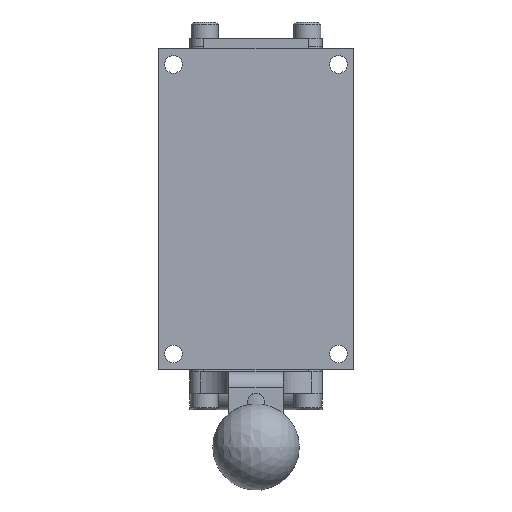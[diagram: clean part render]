
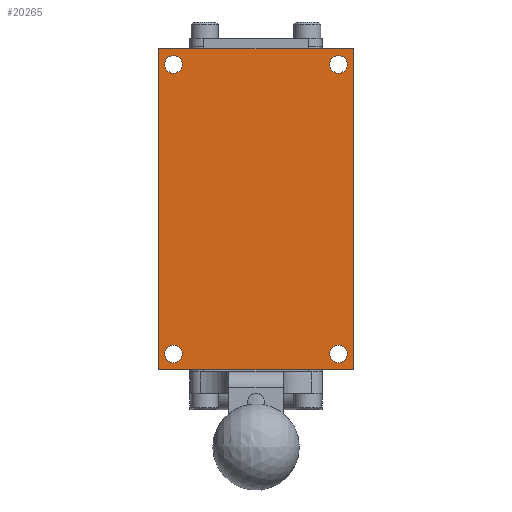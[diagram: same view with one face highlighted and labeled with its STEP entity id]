
A CAD part, front view. The second image highlights one B-rep face of the part: STEP entity #20265.
In plain terms, the highlighted planar face has unit normal (0, -1, 0).
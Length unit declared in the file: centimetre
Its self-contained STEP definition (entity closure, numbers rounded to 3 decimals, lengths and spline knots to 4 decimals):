
#2428=FACE_BOUND('',#4121,.T.);
#2429=FACE_BOUND('',#4122,.T.);
#2430=FACE_BOUND('',#4123,.T.);
#2431=FACE_BOUND('',#4124,.T.);
#2891=FACE_OUTER_BOUND('',#4120,.T.);
#4120=EDGE_LOOP('',(#15553,#15554,#15555,#15556));
#4121=EDGE_LOOP('',(#15557));
#4122=EDGE_LOOP('',(#15558));
#4123=EDGE_LOOP('',(#15559));
#4124=EDGE_LOOP('',(#15560));
#5213=CIRCLE('',#21569,0.2578);
#5214=CIRCLE('',#21571,0.2578);
#5215=CIRCLE('',#21573,0.2578);
#5216=CIRCLE('',#21575,0.2578);
#5975=LINE('',#28835,#7466);
#5986=LINE('',#28877,#7477);
#6204=LINE('',#29832,#7695);
#6446=LINE('',#31256,#7937);
#7466=VECTOR('',#23377,1.);
#7477=VECTOR('',#23412,1.);
#7695=VECTOR('',#23800,1.);
#7937=VECTOR('',#24192,1.);
#8985=VERTEX_POINT('',#28832);
#8986=VERTEX_POINT('',#28834);
#9004=VERTEX_POINT('',#28874);
#9005=VERTEX_POINT('',#28876);
#9530=VERTEX_POINT('',#32060);
#9531=VERTEX_POINT('',#32064);
#9532=VERTEX_POINT('',#32068);
#9533=VERTEX_POINT('',#32072);
#10904=EDGE_CURVE('',#8985,#8986,#5975,.T.);
#10924=EDGE_CURVE('',#9004,#9005,#5986,.T.);
#11205=EDGE_CURVE('',#8986,#9004,#6204,.T.);
#11541=EDGE_CURVE('',#9005,#8985,#6446,.T.);
#11713=EDGE_CURVE('',#9530,#9530,#5213,.T.);
#11715=EDGE_CURVE('',#9531,#9531,#5214,.T.);
#11717=EDGE_CURVE('',#9532,#9532,#5215,.T.);
#11719=EDGE_CURVE('',#9533,#9533,#5216,.T.);
#15553=ORIENTED_EDGE('',*,*,#11205,.F.);
#15554=ORIENTED_EDGE('',*,*,#10904,.F.);
#15555=ORIENTED_EDGE('',*,*,#11541,.F.);
#15556=ORIENTED_EDGE('',*,*,#10924,.F.);
#15557=ORIENTED_EDGE('',*,*,#11713,.T.);
#15558=ORIENTED_EDGE('',*,*,#11715,.T.);
#15559=ORIENTED_EDGE('',*,*,#11717,.T.);
#15560=ORIENTED_EDGE('',*,*,#11719,.T.);
#19577=PLANE('',#21601);
#20265=ADVANCED_FACE('',(#2891,#2428,#2429,#2430,#2431),#19577,.F.);
#21569=AXIS2_PLACEMENT_3D('',#32062,#24556,#24557);
#21571=AXIS2_PLACEMENT_3D('',#32066,#24561,#24562);
#21573=AXIS2_PLACEMENT_3D('',#32070,#24566,#24567);
#21575=AXIS2_PLACEMENT_3D('',#32074,#24571,#24572);
#21601=AXIS2_PLACEMENT_3D('',#32125,#24638,#24639);
#23377=DIRECTION('',(-1.,0.,0.));
#23412=DIRECTION('',(1.,0.,0.));
#23800=DIRECTION('',(0.,0.,1.));
#24192=DIRECTION('',(0.,0.,-1.));
#24556=DIRECTION('center_axis',(0.,1.,0.));
#24557=DIRECTION('ref_axis',(-1.,0.,0.));
#24561=DIRECTION('center_axis',(0.,1.,0.));
#24562=DIRECTION('ref_axis',(-1.,0.,0.));
#24566=DIRECTION('center_axis',(0.,1.,0.));
#24567=DIRECTION('ref_axis',(-1.,0.,0.));
#24571=DIRECTION('center_axis',(0.,1.,0.));
#24572=DIRECTION('ref_axis',(-1.,0.,0.));
#24638=DIRECTION('center_axis',(0.,1.,0.));
#24639=DIRECTION('ref_axis',(0.,0.,1.));
#28832=CARTESIAN_POINT('',(2.8575,-1.6358,-4.7104));
#28834=CARTESIAN_POINT('',(-2.8575,-1.6358,-4.7104));
#28835=CARTESIAN_POINT('',(2.8575,-1.6358,-4.7104));
#28874=CARTESIAN_POINT('',(-2.8575,-1.6358,4.7104));
#28876=CARTESIAN_POINT('',(2.8575,-1.6358,4.7104));
#28877=CARTESIAN_POINT('',(-2.8575,-1.6358,4.7104));
#29832=CARTESIAN_POINT('',(-2.8575,-1.6358,-4.7104));
#31256=CARTESIAN_POINT('',(2.8575,-1.6358,4.7104));
#32060=CARTESIAN_POINT('',(-2.1628,-1.6358,-4.2469));
#32062=CARTESIAN_POINT('Origin',(-2.4206,-1.6358,-4.2469));
#32064=CARTESIAN_POINT('',(-2.1628,-1.6358,4.2469));
#32066=CARTESIAN_POINT('Origin',(-2.4206,-1.6358,4.2469));
#32068=CARTESIAN_POINT('',(2.6784,-1.6358,-4.2469));
#32070=CARTESIAN_POINT('Origin',(2.4206,-1.6358,-4.2469));
#32072=CARTESIAN_POINT('',(2.6784,-1.6358,4.2469));
#32074=CARTESIAN_POINT('Origin',(2.4206,-1.6358,4.2469));
#32125=CARTESIAN_POINT('Origin',(0.,-1.6358,0.));
